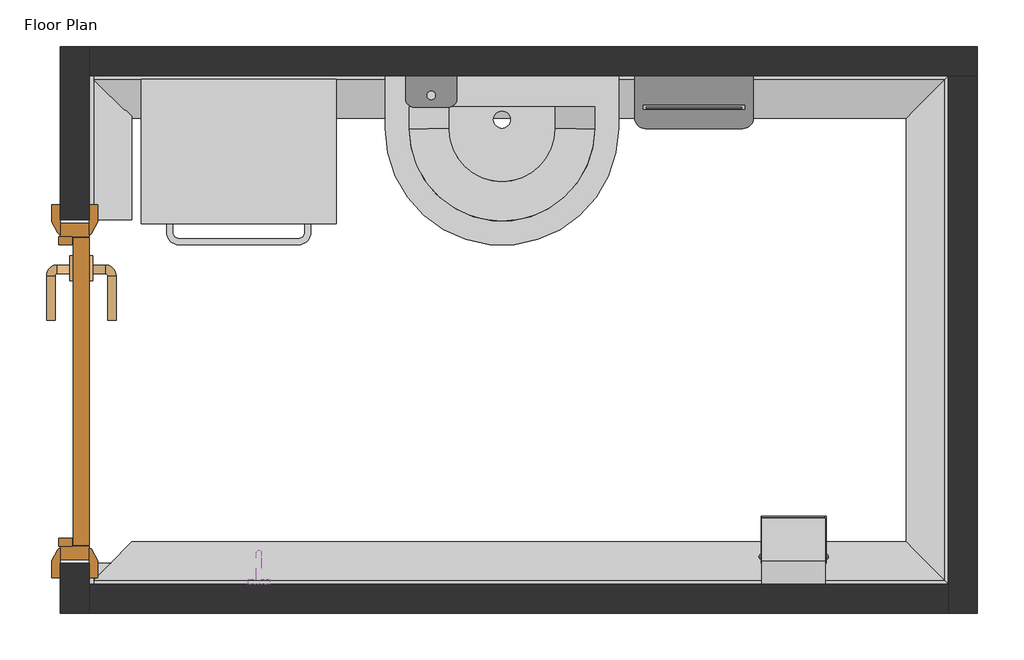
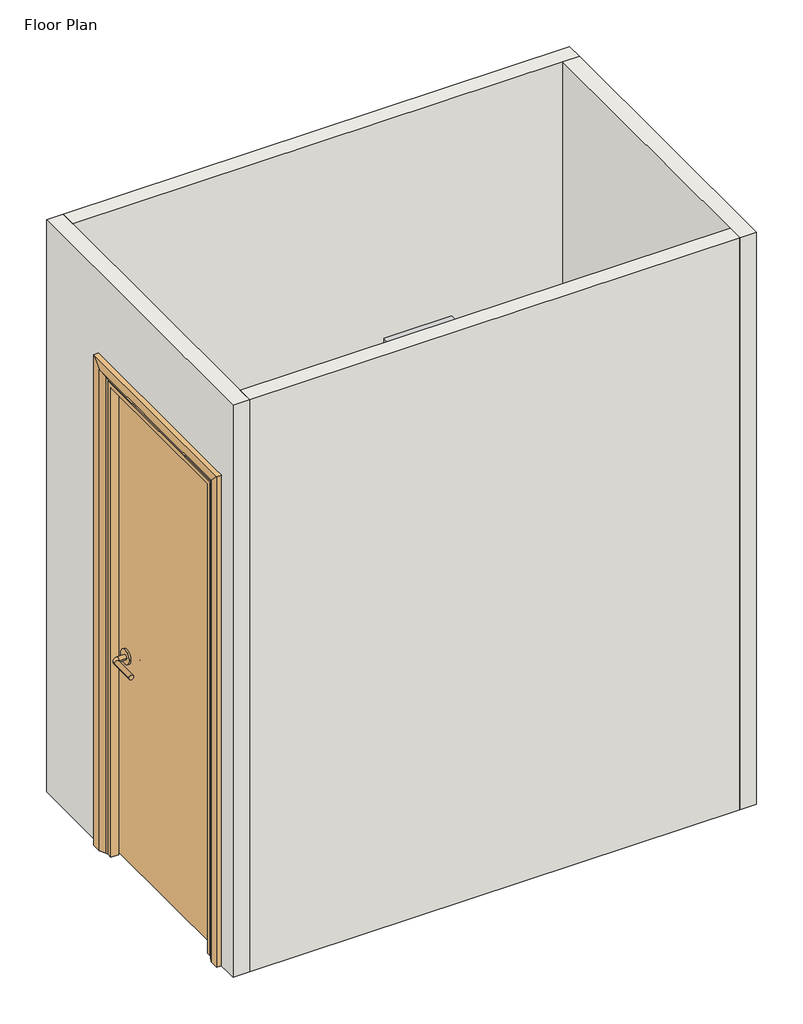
# One storey, incomplete: 5 proxies, 4 walls, 3 furniture elements, 2 flow terminals, 1 door.
"""IFC4 building model written with IfcOpenShell, lengths in millimetres."""

from ifc_helpers import new_model, si_unit, point, frame, frame_2d, origin, origin_with_axes, place, context, project, spatial, polyline, circle_curve, ellipse_curve, trimmed, segment, composite_curve, outline, extrude, faceted_brep, transform, mapped, element, save
from ifc_brep_helpers import plane_surface, revolved_surface, advanced_brep
from components import support_metal_circular_standard_a779fbb7, doors_intsgl_1_810x2110mm_012fbb59, flow_terminal_30861e1c, flow_terminal_e6a3ae2a, furniture_c6a9ce10, furniture_166ce8d1, furniture_26d36cfe

model = new_model("IFC4")

# Units and contexts
model_context = context("Model", 3, world=origin())
ifc_project = project(units=[si_unit("LENGTHUNIT", "METRE", prefix="MILLI")], contexts=[model_context])

# Site, building, storey
site = spatial("IfcSite", under=ifc_project)
building = spatial("IfcBuilding", under=site)
storey = spatial("IfcBuildingStorey", under=building, Name="Floor Plan", Elevation=0.0)

# Proxies
placement = place(None, origin())
element("IfcBuildingElementProxy", 1, Name="Wall Sweeps", at=placement, inside=storey, context=model_context, shape_type="SweptSolid", body=[
    extrude(outline(composite_curve([segment(polyline([(0.0, 48071.6235508), (0.0, 48171.6235508), (10.0, 48171.6235508)]), True, "CONTINUOUS"), segment(trimmed(circle_curve(frame_2d((100.0, 48171.6235508)), 90.0), [point((10.0, 48171.6235508))], [point((100.0, 48081.6235508))], True, "CARTESIAN"), True, "CONTINUOUS"), segment(polyline([(100.0, 48081.6235508), (100.0, 48071.6235508), (0.0, 48071.6235508)]), True, "CONTINUOUS")], self_intersect=False)), frame((0.0, -19976.0332921, 0.0), z_axis=(0.0, 1.0, 0.0), x_axis=(0.0, 0.0, 1.0)), (0.0, 0.0, 1.0), 50.0),
    extrude(outline(composite_curve([segment(polyline([(0.0, 48071.6235508), (0.0, 48171.6235508), (10.0, 48171.6235508)]), True, "CONTINUOUS"), segment(trimmed(circle_curve(frame_2d((100.0, 48171.6235508)), 90.0), [point((10.0, 48171.6235508))], [point((100.0, 48081.6235508))], True, "CARTESIAN"), True, "CONTINUOUS"), segment(polyline([(100.0, 48081.6235508), (100.0, 48071.6235508), (0.0, 48071.6235508)]), True, "CONTINUOUS")], self_intersect=False)), frame((0.0, -19116.0332921, 0.0), z_axis=(0.0, 1.0, 0.0), x_axis=(0.0, 0.0, 1.0)), (0.0, 0.0, 1.0), 340.0),
])
element("IfcBuildingElementProxy", 2, Name="Wall Sweeps", at=placement, inside=storey, context=model_context, shape_type="AdvancedBrep", body=[
    advanced_brep(
    [(50098.1235508, -18776.0332921, 0.0), (49998.1235508, -18876.0332921, 0.0), (49998.1235508, -18876.0332921, 10.0), (50088.1235508, -18786.0332921, 100.0), (50098.1235508, -18776.0332921, 100.0), (50098.1235508, -19976.0332921, 0.0), (50098.1235508, -19976.0332921, 100.0), (50088.1235508, -19966.0332921, 100.0), (49998.1235508, -19876.0332921, 10.0), (49998.1235508, -19876.0332921, 0.0)],
    [
        (0, 1),
        (1, 2),
        (2, 3, ellipse_curve(frame((49998.1235508, -18876.0332921, 100.0), z_axis=(0.7071067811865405, -0.7071067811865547, 0.0), x_axis=(-0.7071067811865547, -0.7071067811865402, 0.0)), 127.2792206, 90.0)),
        (3, 4),
        (4, 0),
        (5, 6),
        (6, 7),
        (7, 8, ellipse_curve(frame((49998.1235508, -19876.0332921, 100.0), z_axis=(0.7071067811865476, 0.7071067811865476, 0.0), x_axis=(0.7071067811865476, -0.7071067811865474, 0.0)), 127.2792206, 90.0)),
        (8, 9),
        (9, 5),
        (0, 5),
        (9, 1),
        (8, 2),
        (7, 3),
        (6, 4),
    ],
    [
        plane_surface(frame((50098.1235508, -18776.0332921, 304.8), z_axis=(-0.7071067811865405, 0.7071067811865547, 0.0), x_axis=(-0.7071067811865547, -0.7071067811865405, 0.0))),
        plane_surface(frame((50098.1235508, -19976.0332921, 304.8), z_axis=(-0.7071067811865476, -0.7071067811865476, 0.0), x_axis=(-0.7071067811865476, 0.7071067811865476, 0.0))),
        plane_surface(frame((50098.1235508, -18776.0332921, 0.0), z_axis=(0.0, 0.0, -1.0), x_axis=(0.0, -1.0, 0.0))),
        plane_surface(frame((49998.1235508, -18876.0332921, 0.0), z_axis=(-1.0, 0.0, 0.0), x_axis=(0.0, -1.0, 0.0))),
        revolved_surface(polyline([(49908.1235508, -19966.0332921, 100.0), (49908.1235508, -18786.0332921, 100.0)]), (49998.1235508, -18776.0332921, 100.0), (0.0, -1.0, 0.0)),
        plane_surface(frame((50088.1235508, -18786.0332921, 100.0), z_axis=(0.0, 0.0, 1.0), x_axis=(0.0, -1.0, 0.0))),
        plane_surface(frame((50098.1235508, -18776.0332921, 100.0), z_axis=(1.0, 0.0, 0.0), x_axis=(0.0, -1.0, 0.0))),
    ],
    [
        (0, [[1, 2, 3, 4, 5]]),
        (1, [[6, 7, 8, 9, 10]]),
        (2, [[-1, 11, -10, 12]]),
        (3, [[-2, -12, -9, 13]]),
        (4, [[-3, -13, -8, 14]]),
        (5, [[-4, -14, -7, 15]]),
        (6, [[-5, -15, -6, -11]]),
    ],
),
])
element("IfcBuildingElementProxy", 3, Name="Wall Sweeps", at=placement, inside=storey, context=model_context, shape_type="AdvancedBrep", body=[
    advanced_brep(
    [(50098.1235508, -18776.0332921, 0.0), (50098.1235508, -18776.0332921, 100.0), (50088.1235508, -18786.0332921, 100.0), (49998.1235508, -18876.0332921, 10.0), (49998.1235508, -18876.0332921, 0.0), (48071.6235508, -18776.0332921, 0.0), (48171.6235508, -18876.0332921, 0.0), (48171.6235508, -18876.0332921, 10.0), (48081.6235508, -18786.0332921, 100.0), (48071.6235508, -18776.0332921, 100.0)],
    [
        (0, 1),
        (1, 2),
        (2, 3, ellipse_curve(frame((49998.1235508, -18876.0332921, 100.0), z_axis=(-0.7071067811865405, 0.7071067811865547, 0.0), x_axis=(-0.7071067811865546, -0.7071067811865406, 0.0)), 127.2792206, 90.0)),
        (3, 4),
        (4, 0),
        (5, 6),
        (6, 7),
        (7, 8, ellipse_curve(frame((48171.6235508, -18876.0332921, 100.0), z_axis=(0.7071067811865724, 0.7071067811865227, 0.0), x_axis=(-0.7071067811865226, 0.7071067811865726, 0.0)), 127.2792206, 90.0)),
        (8, 9),
        (9, 5),
        (4, 6),
        (5, 0),
        (3, 7),
        (2, 8),
        (1, 9),
    ],
    [
        plane_surface(frame((50098.1235508, -18776.0332921, -304.8), z_axis=(0.7071067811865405, -0.7071067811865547, 0.0), x_axis=(-0.7071067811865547, -0.7071067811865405, 0.0))),
        plane_surface(frame((48071.6235508, -18776.0332921, -304.8), z_axis=(-0.7071067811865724, -0.7071067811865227, 0.0), x_axis=(0.7071067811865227, -0.7071067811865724, 0.0))),
        plane_surface(frame((49998.1235508, -18876.0332921, 0.0), z_axis=(0.0, 0.0, -1.0), x_axis=(-1.0, 0.0, 0.0))),
        plane_surface(frame((49998.1235508, -18876.0332921, 10.0), z_axis=(0.0, -1.0, 0.0), x_axis=(-1.0, 0.0, 0.0))),
        revolved_surface(polyline([(48081.6235508, -18966.0332921, 100.0), (50088.1235508, -18966.0332921, 100.0)]), (50098.1235508, -18876.0332921, 100.0), (-1.0, 0.0, 0.0)),
        plane_surface(frame((50098.1235508, -18776.0332921, 100.0), z_axis=(0.0, 0.0, 1.0), x_axis=(-1.0, 0.0, 0.0))),
        plane_surface(frame((50098.1235508, -18776.0332921, 0.0), z_axis=(0.0, 1.0, 0.0), x_axis=(-1.0, 0.0, 0.0))),
    ],
    [
        (0, [[1, 2, 3, 4, 5]]),
        (1, [[6, 7, 8, 9, 10]]),
        (2, [[-5, 11, -6, 12]]),
        (3, [[-4, 13, -7, -11]]),
        (4, [[-3, 14, -8, -13]]),
        (5, [[-2, 15, -9, -14]]),
        (6, [[-1, -12, -10, -15]]),
    ],
),
])
element("IfcBuildingElementProxy", 4, Name="Wall Sweeps", at=placement, inside=storey, context=model_context, shape_type="AdvancedBrep", body=[
    advanced_brep(
    [(48071.6235508, -19976.0332921, 0.0), (48071.6235508, -19976.0332921, 100.0), (48081.6235508, -19966.0332921, 100.0), (48171.6235508, -19876.0332921, 10.0), (48171.6235508, -19876.0332921, 0.0), (50098.1235508, -19976.0332921, 0.0), (49998.1235508, -19876.0332921, 0.0), (49998.1235508, -19876.0332921, 10.0), (50088.1235508, -19966.0332921, 100.0), (50098.1235508, -19976.0332921, 100.0)],
    [
        (0, 1),
        (1, 2),
        (2, 3, ellipse_curve(frame((48171.6235508, -19876.0332921, 100.0), z_axis=(0.7071067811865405, -0.7071067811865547, 0.0), x_axis=(0.7071067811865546, 0.7071067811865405, 0.0)), 127.2792206, 90.0)),
        (3, 4),
        (4, 0),
        (5, 6),
        (6, 7),
        (7, 8, ellipse_curve(frame((49998.1235508, -19876.0332921, 100.0), z_axis=(-0.7071067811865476, -0.7071067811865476, 0.0), x_axis=(0.7071067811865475, -0.7071067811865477, 0.0)), 127.2792206, 90.0)),
        (8, 9),
        (9, 5),
        (4, 6),
        (5, 0),
        (3, 7),
        (2, 8),
        (1, 9),
    ],
    [
        plane_surface(frame((48071.6235508, -19976.0332921, -304.8), z_axis=(-0.7071067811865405, 0.7071067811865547, 0.0), x_axis=(0.7071067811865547, 0.7071067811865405, 0.0))),
        plane_surface(frame((50098.1235508, -19976.0332921, -304.8), z_axis=(0.7071067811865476, 0.7071067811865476, 0.0), x_axis=(-0.7071067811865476, 0.7071067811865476, 0.0))),
        plane_surface(frame((48171.6235508, -19876.0332921, 0.0), z_axis=(0.0, 0.0, -1.0), x_axis=(1.0, 0.0, 0.0))),
        plane_surface(frame((48171.6235508, -19876.0332921, 10.0), z_axis=(0.0, 1.0, 0.0), x_axis=(1.0, 0.0, 0.0))),
        revolved_surface(polyline([(50088.1235508, -19786.0332921, 100.0), (48081.6235508, -19786.0332921, 100.0)]), (48071.6235508, -19876.0332921, 100.0), (1.0, 0.0, 0.0)),
        plane_surface(frame((48071.6235508, -19976.0332921, 100.0), z_axis=(0.0, 0.0, 1.0), x_axis=(1.0, 0.0, 0.0))),
        plane_surface(frame((48071.6235508, -19976.0332921, 0.0), z_axis=(0.0, -1.0, 0.0), x_axis=(1.0, 0.0, 0.0))),
    ],
    [
        (0, [[1, 2, 3, 4, 5]]),
        (1, [[6, 7, 8, 9, 10]]),
        (2, [[-5, 11, -6, 12]]),
        (3, [[-4, 13, -7, -11]]),
        (4, [[-3, 14, -8, -13]]),
        (5, [[-2, 15, -9, -14]]),
        (6, [[-1, -12, -10, -15]]),
    ],
),
])
support_metal_circular_standard_shape = support_metal_circular_standard_a779fbb7(model_context)
element("IfcBuildingElementProxy", 5, Name="Support-Metal-Circular : Standard", ObjectType="Support-Metal-Circular : Standard", at=placement, inside=storey, context=model_context, shape_type="MappedRepresentation", body=[
    mapped(support_metal_circular_standard_shape, transform((48471.6235508, -19901.0332921, 1500.0), x_axis=(-1.0000000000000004, 0.0, 0.0), y_axis=(0.0, -1.0000000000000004, 0.0), z_axis=(0.0, 0.0, 1.0))),
])

# Door
doors_intsgl_1_810x2110mm_shape = doors_intsgl_1_810x2110mm_012fbb59(model_context)
element("IfcDoor", 6, ObjectType="Doors_IntSgl_1 : 810x2110mm", at=placement, inside=storey, context=model_context, shape_type="MappedRepresentation", body=[
    mapped(doors_intsgl_1_810x2110mm_shape, transform((48037.3735508, -19521.0332921, 0.0), x_axis=(0.0, -1.0, 0.0), y_axis=(1.0, 0.0, 0.0), z_axis=(0.0, 0.0, 1.0))),
])

# Flow terminals
flow_terminal_shape = flow_terminal_30861e1c(model_context)
element("IfcFlowTerminal", 7, ObjectType="BIMHealth-Wash_basin_Doc_M-LOD2A-v1 : BIMHealth-Wash_basin_Doc_M-LOD2A-v1", at=placement, inside=storey, context=model_context, shape_type="MappedRepresentation", body=[
    mapped(flow_terminal_shape, transform((48769.9110888, -18776.0332921, 450.0), x_axis=(1.0, 0.0, 0.0), y_axis=(0.0, 1.0, 0.0), z_axis=(0.0, 0.0, 1.0))),
])
flow_terminal_2_shape = flow_terminal_e6a3ae2a(model_context)
element("IfcFlowTerminal", 8, ObjectType="BIMHealth-Toilet-Roll-Holder-LOD2A-v1 : BIMHealth-Toilet-Roll-Holder-LOD2A-v1", at=placement, inside=storey, context=model_context, shape_type="MappedRepresentation", body=[
    mapped(flow_terminal_2_shape, transform((49658.1235508, -19816.0332921, 600.0), x_axis=(1.0, 0.0, 0.0), y_axis=(0.0, 1.0, 0.0), z_axis=(0.0, 0.0, 1.0))),
])

# Furniture
furniture_shape = furniture_c6a9ce10(model_context)
element("IfcFurniture", 9, ObjectType="BIMHealth-Bin_Clinical_Foot_Operated-LOD2A-v1 : BIMHealth-Bin_Clinical_Foot_Operated-LOD2A-v1", at=placement, inside=storey, context=model_context, shape_type="MappedRepresentation", body=[
    mapped(furniture_shape, transform((48204.0614132, -18795.0332921, 0.0), x_axis=(1.0, 0.0, 0.0), y_axis=(0.0, 1.0, 0.0), z_axis=(0.0, 0.0, 1.0))),
])
furniture_2_shape = furniture_166ce8d1(model_context)
element("IfcFurniture", 10, ObjectType="BIMHealth-Paper_Towel_Dispenser-LOD2A-v1 : BIMHealth-Paper_Towel_Dispenser-LOD2A-v1", at=placement, inside=storey, context=model_context, shape_type="MappedRepresentation", body=[
    mapped(furniture_2_shape, transform((49358.1235508, -18776.0332921, 0.0), x_axis=(1.0, 0.0, 0.0), y_axis=(0.0, 1.0, 0.0), z_axis=(0.0, 0.0, 1.0))),
])
furniture_3_shape = furniture_26d36cfe(model_context)
element("IfcFurniture", 11, ObjectType="BIMHealth-Soap_Dispenser-LOD2A-v1 : BIMHealth-Soap_Dispenser-LOD2A-v1", at=placement, inside=storey, context=model_context, shape_type="MappedRepresentation", body=[
    mapped(furniture_3_shape, transform((48818.1235508, -18761.0332921, 0.0), x_axis=(1.0, 0.0, 0.0), y_axis=(0.0, 1.0, 0.0), z_axis=(0.0, 0.0, 1.0))),
])

# Walls
element("IfcWall", 12, ObjectType="BHMS02A- Partn50-vinyl sktg1 side", at=placement, inside=storey, context=model_context, shape_type="Brep", body=[
    faceted_brep([(48071.6235508, -18707.5332921, 2500.0), (48071.6235508, -18776.0332921, 2500.0), (48071.6235508, -19976.0332921, 2500.0), (48071.6235508, -20044.5332921, 2500.0), (48071.6235508, -20044.5332921, 0.0), (48071.6235508, -19976.0332921, 0.0), (48071.6235508, -19926.0332921, 0.0), (48071.6235508, -19926.0332921, 100.0), (48071.6235508, -19926.0332921, 2110.0), (48071.6235508, -19116.0332921, 2110.0), (48071.6235508, -19116.0332921, 100.0), (48071.6235508, -19116.0332921, 0.0), (48071.6235508, -18776.0332921, 0.0), (48071.6235508, -18707.5332921, 0.0), (48003.1235508, -20044.5332921, 2500.0), (48003.1235508, -18707.5332921, 2500.0), (48003.1235508, -18707.5332921, 0.0), (48003.1235508, -19116.0332921, 0.0), (48003.1235508, -19116.0332921, 2110.0), (48003.1235508, -19926.0332921, 2110.0), (48003.1235508, -19926.0332921, 0.0), (48003.1235508, -20044.5332921, 0.0)], [[[0, 1, 2, 3, 4, 5, 6, 7, 8, 9, 10, 11, 12, 13]], [[14, 15, 16, 17, 18, 19, 20, 21]], [[16, 13, 12, 11, 17]], [[4, 21, 20, 6, 5]], [[3, 2, 1, 0, 15, 14]], [[0, 13, 16, 15]], [[4, 3, 14, 21]], [[19, 8, 7, 6, 20]], [[8, 19, 18, 9]], [[9, 18, 17, 11, 10]]]),
])
element("IfcWall", 13, ObjectType="BHMS02A- Partn50-vinyl sktg1 side", at=placement, inside=storey, context=model_context, shape_type="Brep", body=[
    faceted_brep([(50098.1235508, -18776.0332921, 0.0), (50098.1235508, -19976.0332921, 0.0), (50098.1235508, -20044.5332921, 0.0), (50098.1235508, -20044.5332921, 2500.0), (50098.1235508, -19976.0332921, 2500.0), (50098.1235508, -18776.0332921, 2500.0), (50166.6235508, -18776.0332921, 0.0), (50166.6235508, -18776.0332921, 2500.0), (50166.6235508, -20044.5332921, 2500.0), (50166.6235508, -20044.5332921, 0.0)], [[[0, 1, 2, 3, 4, 5]], [[6, 7, 8, 9]], [[2, 1, 0, 6, 9]], [[5, 4, 3, 8, 7]], [[0, 5, 7, 6]], [[3, 2, 9, 8]]]),
])
element("IfcWall", 14, ObjectType="BHMS02A- Partn50-vinyl sktg1 side", at=placement, inside=storey, context=model_context, shape_type="Brep", body=[
    faceted_brep([(50166.6235508, -18707.5332921, 0.0), (48071.6235508, -18707.5332921, 0.0), (48071.6235508, -18707.5332921, 2500.0), (50166.6235508, -18707.5332921, 2500.0), (50166.6235508, -18776.0332921, 0.0), (50166.6235508, -18776.0332921, 2500.0), (50098.1235508, -18776.0332921, 2500.0), (48071.6235508, -18776.0332921, 2500.0), (48071.6235508, -18776.0332921, 0.0), (50098.1235508, -18776.0332921, 0.0)], [[[0, 1, 2, 3]], [[4, 5, 6, 7, 8, 9]], [[1, 0, 4, 9, 8]], [[3, 2, 7, 6, 5]], [[2, 1, 8, 7]], [[0, 3, 5, 4]]]),
])
element("IfcWall", 15, ObjectType="BHMS02A- Partn50-vinyl sktg1 side", at=placement, inside=storey, context=model_context, shape_type="SweptSolid", body=[
    extrude(outline(polyline([(50098.1235508, -20044.5332921), (48071.6235508, -20044.5332921), (48071.6235508, -19976.0332921), (50098.1235508, -19976.0332921), (50098.1235508, -20044.5332921)])), origin_with_axes(), (0.0, 0.0, 1.0), 2500.0),
])

save(model, "model.ifc")
